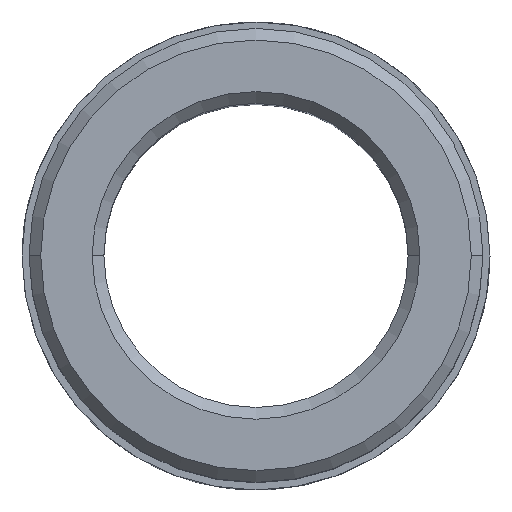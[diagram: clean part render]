
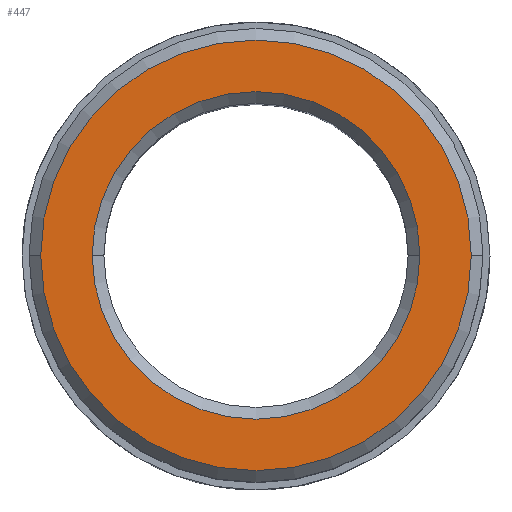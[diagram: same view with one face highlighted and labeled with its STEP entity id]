
A CAD part, top view. The second image highlights one B-rep face of the part: STEP entity #447.
In plain terms, the highlighted planar face has unit normal (0, 0, 1).
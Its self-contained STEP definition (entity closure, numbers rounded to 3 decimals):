
#329=CARTESIAN_POINT('Axis2P3D Location',(0.,0.,36.)) ;
#333=CARTESIAN_POINT('Vertex',(14.,0.,36.)) ;
#335=CARTESIAN_POINT('Vertex',(-14.,0.,36.)) ;
#408=CARTESIAN_POINT('Axis2P3D Location',(0.,0.,36.)) ;
#420=CARTESIAN_POINT('Axis2P3D Location',(14.,0.,36.)) ;
#425=CARTESIAN_POINT('Axis2P3D Location',(0.,0.,36.)) ;
#429=CARTESIAN_POINT('Vertex',(18.4,0.,36.)) ;
#431=CARTESIAN_POINT('Vertex',(-18.4,0.,36.)) ;
#434=CARTESIAN_POINT('Axis2P3D Location',(0.,0.,36.)) ;
#330=DIRECTION('Axis2P3D Direction',(0.,-0.,1.)) ;
#409=DIRECTION('Axis2P3D Direction',(0.,-0.,1.)) ;
#421=DIRECTION('Axis2P3D Direction',(0.,-0.,1.)) ;
#422=DIRECTION('Axis2P3D XDirection',(1.,0.,0.)) ;
#426=DIRECTION('Axis2P3D Direction',(0.,-0.,1.)) ;
#435=DIRECTION('Axis2P3D Direction',(0.,-0.,1.)) ;
#331=AXIS2_PLACEMENT_3D('Circle Axis2P3D',#329,#330,$) ;
#410=AXIS2_PLACEMENT_3D('Circle Axis2P3D',#408,#409,$) ;
#423=AXIS2_PLACEMENT_3D('Plane Axis2P3D',#420,#421,#422) ;
#427=AXIS2_PLACEMENT_3D('Circle Axis2P3D',#425,#426,$) ;
#436=AXIS2_PLACEMENT_3D('Circle Axis2P3D',#434,#435,$) ;
#440=ORIENTED_EDGE('',*,*,#433,.T.) ;
#441=ORIENTED_EDGE('',*,*,#438,.T.) ;
#444=ORIENTED_EDGE('',*,*,#412,.F.) ;
#445=ORIENTED_EDGE('',*,*,#337,.F.) ;
#446=FACE_BOUND('',#443,.T.) ;
#447=ADVANCED_FACE('733-20',(#442,#446),#424,.T.) ;
#332=CIRCLE('generated circle',#331,14.) ;
#411=CIRCLE('generated circle',#410,14.) ;
#428=CIRCLE('generated circle',#427,18.4) ;
#437=CIRCLE('generated circle',#436,18.4) ;
#337=EDGE_CURVE('',#334,#336,#332,.T.) ;
#412=EDGE_CURVE('',#336,#334,#411,.T.) ;
#433=EDGE_CURVE('',#430,#432,#428,.T.) ;
#438=EDGE_CURVE('',#432,#430,#437,.T.) ;
#439=EDGE_LOOP('',(#440,#441)) ;
#443=EDGE_LOOP('',(#444,#445)) ;
#442=FACE_OUTER_BOUND('',#439,.T.) ;
#424=PLANE('Plane',#423) ;
#334=VERTEX_POINT('',#333) ;
#336=VERTEX_POINT('',#335) ;
#430=VERTEX_POINT('',#429) ;
#432=VERTEX_POINT('',#431) ;
